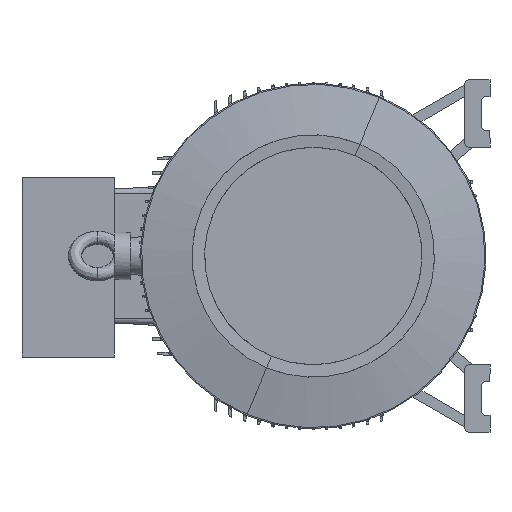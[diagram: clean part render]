
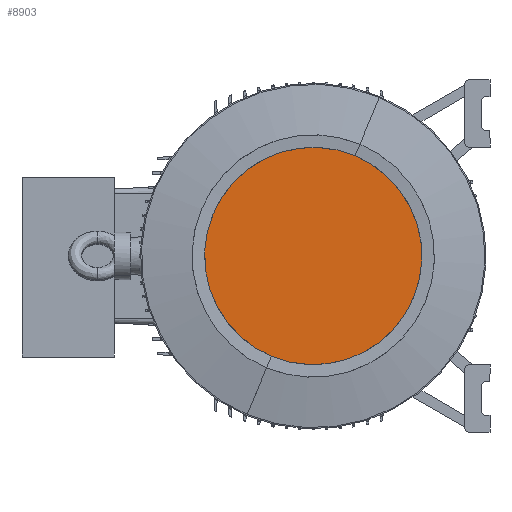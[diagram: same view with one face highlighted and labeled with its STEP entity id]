
A CAD part, left-side view. The second image highlights one B-rep face of the part: STEP entity #8903.
In plain terms, the highlighted planar face has unit normal (-1, 0, 0) as drawn and (1, 0, 0) by its records, which use the part's own axes.
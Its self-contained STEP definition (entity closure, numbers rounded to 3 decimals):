
#731 = EDGE_CURVE ( 'NONE', #9640, #9588, #21883, .T. ) ;
#6183 = ORIENTED_EDGE ( 'NONE', *, *, #27640, .T. ) ;
#6204 = ORIENTED_EDGE ( 'NONE', *, *, #731, .T. ) ;
#8903 = ADVANCED_FACE ( 'NONE', ( #22347 ), #13900, .F. ) ;
#9588 = VERTEX_POINT ( 'NONE', #15218 ) ;
#9640 = VERTEX_POINT ( 'NONE', #15302 ) ;
#10378 = EDGE_LOOP ( 'NONE', ( #6183, #6204 ) ) ;
#11793 = AXIS2_PLACEMENT_3D ( 'NONE', #30268, #30263, #30290 ) ;
#12908 = AXIS2_PLACEMENT_3D ( 'NONE', #21174, #21180, #21172 ) ;
#13347 = AXIS2_PLACEMENT_3D ( 'NONE', #13902, #13904, #13906 ) ;
#13900 = PLANE ( 'NONE',  #13347 ) ;
#13902 = CARTESIAN_POINT ( 'NONE',  ( 338., 193.623, 0. ) ) ;
#13904 = DIRECTION ( 'NONE',  ( -1., 0., 0. ) ) ;
#13906 = DIRECTION ( 'NONE',  ( 0., 0., 1. ) ) ;
#15218 = CARTESIAN_POINT ( 'NONE',  ( 338., 0., -193.623 ) ) ;
#15302 = CARTESIAN_POINT ( 'NONE',  ( 338., 0., 193.623 ) ) ;
#18806 = CIRCLE ( 'NONE', #11793, 193.623 ) ;
#21172 = DIRECTION ( 'NONE',  ( 0., 0., -1. ) ) ;
#21174 = CARTESIAN_POINT ( 'NONE',  ( 338., 0., 0. ) ) ;
#21180 = DIRECTION ( 'NONE',  ( 1., 0., 0. ) ) ;
#21883 = CIRCLE ( 'NONE', #12908, 193.623 ) ;
#22347 = FACE_OUTER_BOUND ( 'NONE', #10378, .T. ) ;
#27640 = EDGE_CURVE ( 'NONE', #9588, #9640, #18806, .T. ) ;
#30263 = DIRECTION ( 'NONE',  ( 1., 0., 0. ) ) ;
#30268 = CARTESIAN_POINT ( 'NONE',  ( 338., 0., 0. ) ) ;
#30290 = DIRECTION ( 'NONE',  ( 0., 0., -1. ) ) ;
